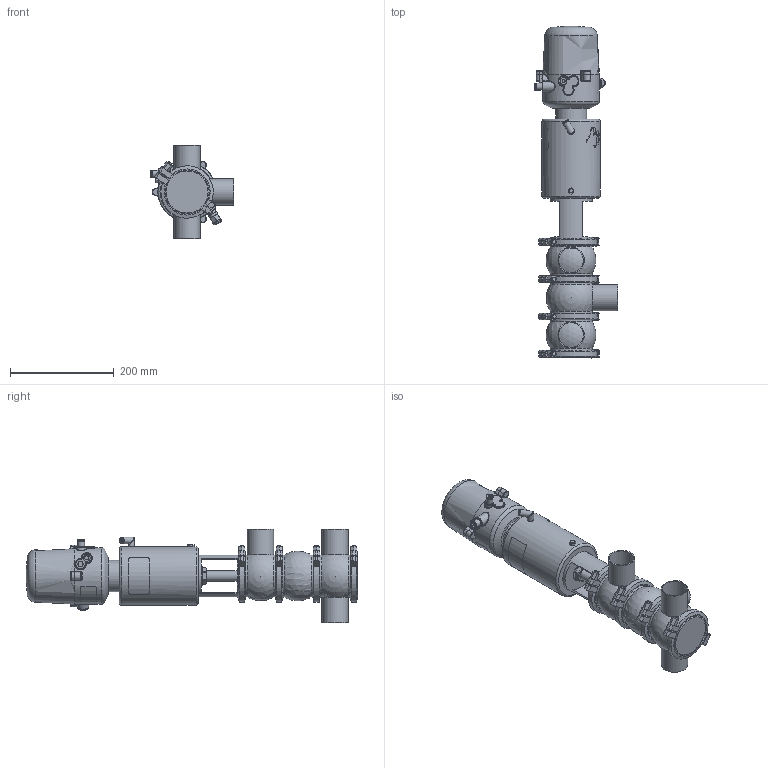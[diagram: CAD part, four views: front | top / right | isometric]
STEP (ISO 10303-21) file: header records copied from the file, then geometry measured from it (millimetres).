
FILE_DESCRIPTION (( 'STEP AP214' ), '1' );
FILE_NAME ('INNOVA L S W OD 2 T2 AS NC & C-TOP S_10.241.16.0058.STEP', '2024-08-06T12:28:42', ( '' ), ( '' ), 'SwSTEP 2.0', 'SolidWorks 2023', '' );
FILE_SCHEMA (( 'AUTOMOTIVE_DESIGN' ));
Length unit declared in the file: millimetre
Products named in the file (9): 10.426.15.0001_C-TOP S - 1 EV; 10.240.15.0006_OD 2"; 10.240.15.0001_DN 050; 10.240.15.0007_OD 2"; INNOVA L S W OD 2 T2 AS NC & C-TOP S_10.241.16.0058; 10.241.15.0001_DIN 050; 10.240.15.0010_DN 050; 10.240.15.0017_Estàndard; 10.240.15.0014_T2 AS P180
Assembly tree (12 placements, depth 2):
  INNOVA L S W OD 2 T2 AS NC & C-TOP S_10.241.16.0058
    10.240.15.0006_OD 2"  x2
    10.240.15.0007_OD 2"
    10.240.15.0010_DN 050
    10.240.15.0014_T2 AS P180
    10.240.15.0017_Estàndard
    10.426.15.0001_C-TOP S - 1 EV
    10.240.15.0001_DN 050  x4
    10.241.15.0001_DIN 050
Bounding box: 161 x 640.27 x 180 mm (x, y, z)
Volume: 4678774.6 mm3; surface area: 462566.7 mm2
Topology: 13 solids, 13 shells, 1311 faces, 3193 edges, 2118 vertices
Faces by surface type: plane 478, cylinder 405, cone 221, bspline 160, torus 36, sphere 11
Full cylindrical faces by diameter (mm): 0.371 x17, 0.512 x16, 0.658 x16, 0.795 x16, 0.94 x15, 1.098 x15, 1.241 x13, 1.382 x13, 1.523 x11, 1.669 x10, 2.201 x1, 4 x2, 5.5 x2, 6 x2, 6.15 x1, 8 x10, 8.5 x1, 10 x1, 10.5 x1, 11 x2, 12.5 x3, 13 x2, 13.5 x2, 16 x1, 17 x3, 20 x3, 20.5 x1, 22 x2, 31 x1, 34.5 x3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
Entity records: 58112 total; most frequent: CARTESIAN_POINT 27766, ORIENTED_EDGE 4516, DIRECTION 3677, EDGE_CURVE 2258, VERTEX_POINT 1609, EDGE_LOOP 1579, AXIS2_PLACEMENT_3D 1510, FACE_OUTER_BOUND 1339
